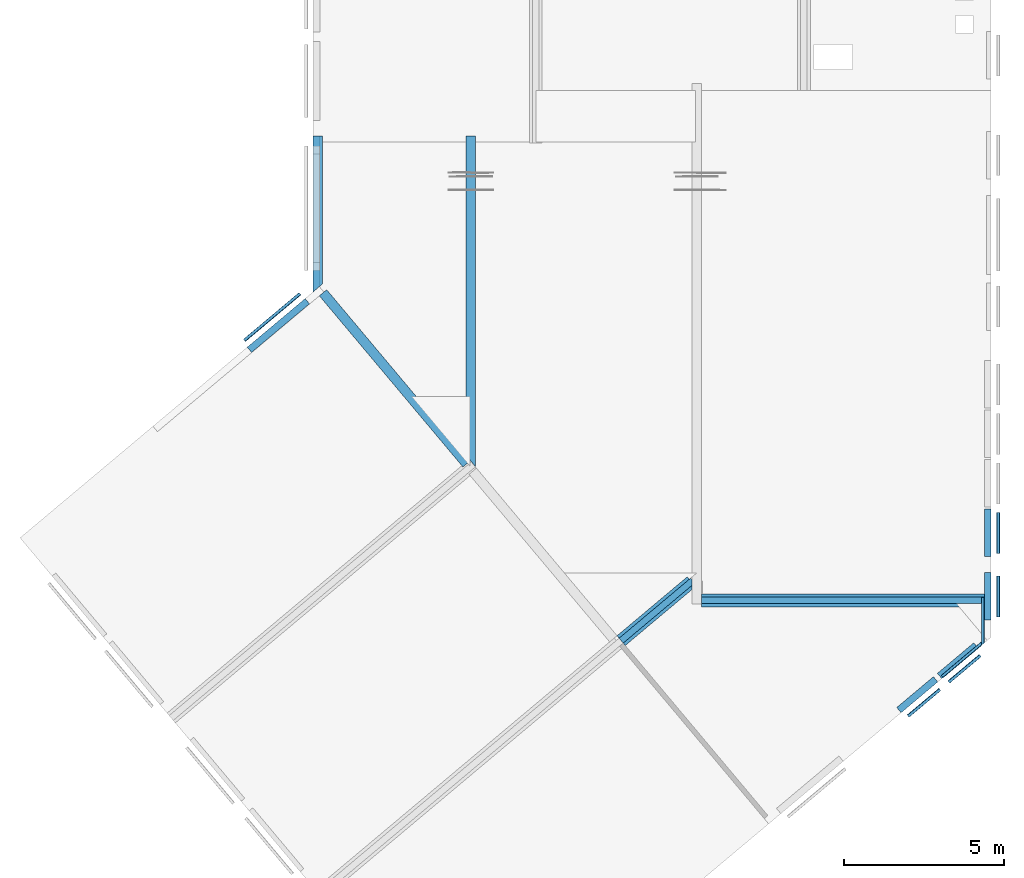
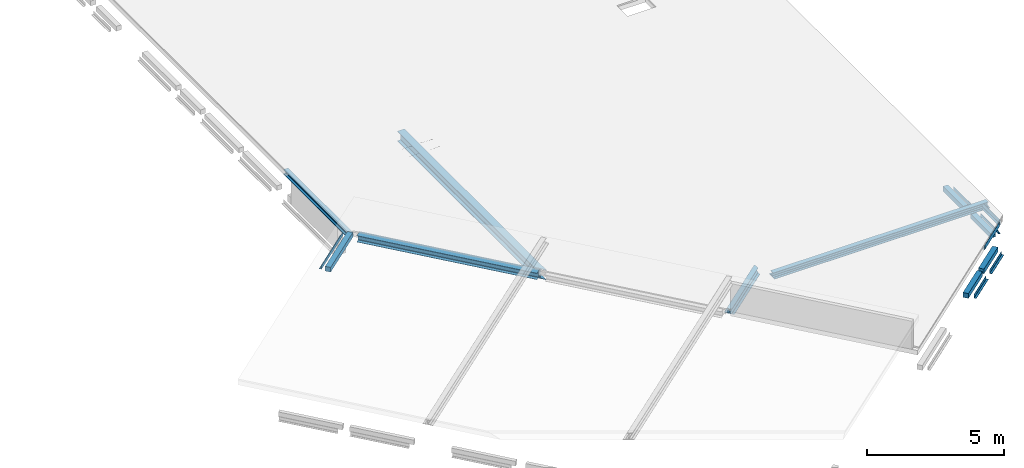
# One storey, part 3 of 9: 18 beams.
"""IFC2X3 building model written with IfcOpenShell, lengths in millimetres."""

from ifc_helpers import new_model, entity, si_unit, converted_unit, derived_unit, direction, frame, frame_2d, origin, origin_2d_with_axis, place, context, subcontext, project, spatial, polyline, circle_curve, parameter, trimmed, segment, composite_curve, rectangle, i_section, outline, extrude, clip, halfspace, source, transform, mapped, material, material_list, type_object, type_shapes, element, save


model = new_model("IFC2X3")

# Units and contexts
model_context = context("Model", 3, precision=0.01, world=origin(), true_north=direction((6.12303176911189e-17, 1.0)))
body_context = subcontext(model_context, "Body", "Model", "MODEL_VIEW")
ifc_project = project(units=[si_unit("LENGTHUNIT", "METRE", prefix="MILLI"), si_unit("AREAUNIT", "SQUARE_METRE"), si_unit("VOLUMEUNIT", "CUBIC_METRE"), converted_unit("PLANEANGLEUNIT", "DEGREE", entity("IfcRatioMeasure", 0.0174532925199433), si_unit("PLANEANGLEUNIT", "RADIAN"), dimensions=[0, 0, 0, 0, 0, 0, 0]), si_unit("MASSUNIT", "GRAM", prefix="KILO"), derived_unit("MASSDENSITYUNIT", [(si_unit("MASSUNIT", "GRAM", prefix="KILO"), 1), (si_unit("LENGTHUNIT", "METRE"), -3)]), derived_unit("MOMENTOFINERTIAUNIT", [(si_unit("LENGTHUNIT", "METRE"), 4)]), si_unit("TIMEUNIT", "SECOND"), si_unit("FREQUENCYUNIT", "HERTZ"), si_unit("THERMODYNAMICTEMPERATUREUNIT", "DEGREE_CELSIUS"), derived_unit("THERMALTRANSMITTANCEUNIT", [(si_unit("MASSUNIT", "GRAM", prefix="KILO"), 1), (si_unit("THERMODYNAMICTEMPERATUREUNIT", "KELVIN"), -1), (si_unit("TIMEUNIT", "SECOND"), -3)]), derived_unit("VOLUMETRICFLOWRATEUNIT", [(si_unit("LENGTHUNIT", "METRE"), 3), (si_unit("TIMEUNIT", "SECOND"), -1)]), si_unit("ELECTRICCURRENTUNIT", "AMPERE"), si_unit("ELECTRICVOLTAGEUNIT", "VOLT"), si_unit("POWERUNIT", "WATT"), si_unit("FORCEUNIT", "NEWTON", prefix="KILO"), si_unit("ILLUMINANCEUNIT", "LUX"), si_unit("LUMINOUSFLUXUNIT", "LUMEN"), si_unit("LUMINOUSINTENSITYUNIT", "CANDELA"), derived_unit("USERDEFINED", [(si_unit("MASSUNIT", "GRAM", prefix="KILO"), -1), (si_unit("LENGTHUNIT", "METRE"), -2), (si_unit("TIMEUNIT", "SECOND"), 3), (si_unit("LUMINOUSFLUXUNIT", "LUMEN"), 1)]), derived_unit("LINEARVELOCITYUNIT", [(si_unit("LENGTHUNIT", "METRE"), 1), (si_unit("TIMEUNIT", "SECOND"), -1)]), si_unit("PRESSUREUNIT", "PASCAL"), derived_unit("USERDEFINED", [(si_unit("LENGTHUNIT", "METRE"), -2), (si_unit("MASSUNIT", "GRAM", prefix="KILO"), 1), (si_unit("TIMEUNIT", "SECOND"), -2)]), derived_unit("LINEARFORCEUNIT", [(si_unit("MASSUNIT", "GRAM", prefix="KILO"), 1), (si_unit("LENGTHUNIT", "METRE"), 1), (si_unit("TIMEUNIT", "SECOND"), -2), (si_unit("LENGTHUNIT", "METRE"), -1)]), derived_unit("PLANARFORCEUNIT", [(si_unit("MASSUNIT", "GRAM", prefix="KILO"), 1), (si_unit("LENGTHUNIT", "METRE"), 1), (si_unit("TIMEUNIT", "SECOND"), -2), (si_unit("LENGTHUNIT", "METRE"), -2)])], contexts=[model_context])

# Site, building, storey
site_placement = place(None, origin())
site = spatial("IfcSite", under=ifc_project, at=site_placement, Name="Default", CompositionType="ELEMENT")
building_placement = place(site_placement, origin())
building = spatial("IfcBuilding", under=site, at=building_placement, CompositionType="ELEMENT")
storey_placement = place(building_placement, frame((0.0, 0.0, 7000.0)))
storey = spatial("IfcBuildingStorey", under=building, at=storey_placement, Name="02 tweede verdieping", CompositionType="ELEMENT", Elevation=7000.00000000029)

# Beams
ifc_material_1 = material(Name="00_Staal_generiek")
beam_type_1 = type_object("IfcBeamType", Name="BERSnl_28_SF_LIB_balk hoeklijn ongelijk_gen_ISR:balk gen l150x100x10", PredefinedType="BEAM")
beam_1_placement = place(storey_placement, frame((35026.8270571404, 3518.22848625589, -60.0), z_axis=(0.0, 0.0, 1.0), x_axis=(0.0, 1.0, 0.0)))
element("IfcBeam", 1, at=beam_1_placement, inside=storey, type_object=beam_type_1, material=ifc_material_1, Name="BERSnl_28_SF_LIB_balk hoeklijn ongelijk_gen_ISR:balk gen l150x100x10", ObjectType="BERSnl_28_SF_LIB_balk hoeklijn ongelijk_gen_ISR:balk gen l150x100x10", context=body_context, shape_type="SweptSolid", body=[
    extrude(outline(composite_curve([segment(polyline([(50.4444444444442, -62.2222222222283), (54.4444444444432, -62.2222222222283)]), True, "CONTINUOUS"), segment(polyline([(54.4444444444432, -62.2222222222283), (54.4444444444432, 37.777777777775)]), True, "CONTINUOUS"), segment(polyline([(54.4444444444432, 37.777777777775), (-95.5555555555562, 37.777777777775)]), True, "CONTINUOUS"), segment(polyline([(-95.5555555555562, 37.777777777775), (-95.5555555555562, 33.7777777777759)]), True, "CONTINUOUS"), segment(trimmed(circle_curve(frame_2d((-89.5555555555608, 33.7777777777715), x_axis=(-1.0, 0.0)), 5.99999999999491), [parameter(0.0)], [parameter(90.0000000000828)], True, "PARAMETER"), True, "CONTINUOUS"), segment(polyline([(-89.5555555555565, 27.7777777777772), (32.4444444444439, 27.7777777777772)]), True, "CONTINUOUS"), segment(trimmed(circle_curve(frame_2d((32.4444444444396, 15.7777777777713), x_axis=(0.0, 1.0)), 12.0000000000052), [parameter(270.000000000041)], [parameter(0.0)], True, "PARAMETER"), False, "CONTINUOUS"), segment(polyline([(44.4444444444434, 15.7777777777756), (44.4444444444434, -56.2222222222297)]), True, "CONTINUOUS"), segment(trimmed(circle_curve(frame_2d((50.4444444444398, -56.222222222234), x_axis=(-1.0, 0.0)), 5.99999999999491), [parameter(0.0)], [parameter(90.0000000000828)], True, "PARAMETER"), True, "CONTINUOUS")], self_intersect=False)), frame((-292.658148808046, -14.377777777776, -95.5555555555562), z_axis=(1.0, 0.0, 0.0), x_axis=(0.0, 0.0, -1.0)), (0.0, 0.0, 1.0), 1285.99999999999),
])
beam_2_placement = place(storey_placement, frame((35026.8270571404, 758.228486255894, -60.0), z_axis=(0.0, 0.0, 1.0), x_axis=(0.0, 1.0, 0.0)))
element("IfcBeam", 2, at=beam_2_placement, inside=storey, type_object=beam_type_1, material=ifc_material_1, Name="BERSnl_28_SF_LIB_balk hoeklijn ongelijk_gen_ISR:balk gen l150x100x10", ObjectType="BERSnl_28_SF_LIB_balk hoeklijn ongelijk_gen_ISR:balk gen l150x100x10", context=body_context, shape_type="SweptSolid", body=[
    extrude(outline(composite_curve([segment(polyline([(50.4444444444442, -62.222222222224), (54.4444444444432, -62.222222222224)]), True, "CONTINUOUS"), segment(polyline([(54.4444444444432, -62.222222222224), (54.4444444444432, 37.7777777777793)]), True, "CONTINUOUS"), segment(polyline([(54.4444444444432, 37.7777777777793), (-95.5555555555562, 37.7777777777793)]), True, "CONTINUOUS"), segment(polyline([(-95.5555555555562, 37.7777777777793), (-95.5555555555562, 33.7777777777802)]), True, "CONTINUOUS"), segment(trimmed(circle_curve(frame_2d((-89.5555555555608, 33.7777777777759), x_axis=(-1.0, 0.0)), 5.99999999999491), [parameter(0.0)], [parameter(90.0000000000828)], True, "PARAMETER"), True, "CONTINUOUS"), segment(polyline([(-89.5555555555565, 27.7777777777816), (32.4444444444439, 27.7777777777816)]), True, "CONTINUOUS"), segment(trimmed(circle_curve(frame_2d((32.4444444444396, 15.7777777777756), x_axis=(0.0, 1.0)), 12.0000000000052), [parameter(270.000000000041)], [parameter(0.0)], True, "PARAMETER"), False, "CONTINUOUS"), segment(polyline([(44.4444444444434, 15.77777777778), (44.4444444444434, -56.2222222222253)]), True, "CONTINUOUS"), segment(trimmed(circle_curve(frame_2d((50.4444444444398, -56.2222222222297), x_axis=(-1.0, 0.0)), 5.99999999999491), [parameter(0.0)], [parameter(90.0000000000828)], True, "PARAMETER"), True, "CONTINUOUS")], self_intersect=False)), frame((477.068142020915, -14.3777777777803, -95.5555555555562), z_axis=(1.0, 0.0, 0.0), x_axis=(0.0, 0.0, -1.0)), (0.0, 0.0, 1.0), 1286.0),
])
beam_3_placement = place(storey_placement, frame((32206.1013074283, -1853.30908147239, -60.0), z_axis=(0.0, 0.0, 1.0), x_axis=(0.766044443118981, 0.642787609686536, 0.0)))
element("IfcBeam", 3, at=beam_3_placement, inside=storey, type_object=beam_type_1, material=ifc_material_1, Name="BERSnl_28_SF_LIB_balk hoeklijn ongelijk_gen_ISR:balk gen l150x100x10", ObjectType="BERSnl_28_SF_LIB_balk hoeklijn ongelijk_gen_ISR:balk gen l150x100x10", context=body_context, shape_type="SweptSolid", body=[
    extrude(outline(composite_curve([segment(polyline([(50.4444444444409, -62.2222222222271), (54.44444444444, -62.2222222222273)]), True, "CONTINUOUS"), segment(polyline([(54.44444444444, -62.2222222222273), (54.4444444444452, 37.7777777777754)]), True, "CONTINUOUS"), segment(polyline([(54.4444444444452, 37.7777777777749), (-95.5555555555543, 37.7777777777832)]), True, "CONTINUOUS"), segment(polyline([(-95.5555555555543, 37.7777777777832), (-95.5555555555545, 33.7777777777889)]), True, "CONTINUOUS"), segment(trimmed(circle_curve(frame_2d((-89.5555555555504, 33.7777777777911), x_axis=(-1.0, 0.0)), 6.00000000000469), [parameter(0.0)], [parameter(89.999999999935)], True, "PARAMETER"), True, "CONTINUOUS"), segment(polyline([(-89.5555555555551, 27.7777777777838), (32.4444444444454, 27.7777777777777)]), True, "CONTINUOUS"), segment(trimmed(circle_curve(frame_2d((32.444444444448, 15.7777777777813), x_axis=(0.0, 1.0)), 11.9999999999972), [parameter(269.99999999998)], [parameter(0.0)], True, "PARAMETER"), False, "CONTINUOUS"), segment(polyline([(44.4444444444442, 15.7777777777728), (44.4444444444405, -56.2222222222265)]), True, "CONTINUOUS"), segment(trimmed(circle_curve(frame_2d((50.4444444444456, -56.2222222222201), x_axis=(-1.0, 0.0)), 6.00000000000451), [parameter(0.0)], [parameter(89.9999999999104)], True, "PARAMETER"), True, "CONTINUOUS")], self_intersect=False)), frame((8.97917340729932, -14.3777777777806, -95.5555555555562), z_axis=(1.0, 0.0, 0.0), x_axis=(0.0, 0.0, -1.0)), (0.0, 0.0, 1.0), 1300.0),
])
beam_4_placement = place(storey_placement, frame((33479.6268100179, -784.694301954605, -60.0), z_axis=(0.0, 0.0, 1.0), x_axis=(0.766044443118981, 0.642787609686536, 0.0)))
element("IfcBeam", 4, at=beam_4_placement, inside=storey, type_object=beam_type_1, material=ifc_material_1, Name="BERSnl_28_SF_LIB_balk hoeklijn ongelijk_gen_ISR:balk gen l150x100x10", ObjectType="BERSnl_28_SF_LIB_balk hoeklijn ongelijk_gen_ISR:balk gen l150x100x10", context=body_context, shape_type="SweptSolid", body=[
    extrude(outline(composite_curve([segment(polyline([(50.4444444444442, -62.2222222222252), (54.4444444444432, -62.2222222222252)]), True, "CONTINUOUS"), segment(polyline([(54.4444444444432, -62.2222222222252), (54.4444444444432, 37.7777777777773)]), True, "CONTINUOUS"), segment(polyline([(54.4444444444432, 37.7777777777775), (-95.5555555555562, 37.7777777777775)]), True, "CONTINUOUS"), segment(polyline([(-95.5555555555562, 37.7777777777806), (-95.5555555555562, 33.7777777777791)]), True, "CONTINUOUS"), segment(trimmed(circle_curve(frame_2d((-89.5555555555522, 33.7777777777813), x_axis=(-1.0, 0.0)), 6.00000000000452), [parameter(0.0)], [parameter(89.9999999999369)], True, "PARAMETER"), True, "CONTINUOUS"), segment(polyline([(-89.5555555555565, 27.7777777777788), (32.4444444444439, 27.7777777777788)]), True, "CONTINUOUS"), segment(trimmed(circle_curve(frame_2d((32.4444444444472, 15.7777777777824), x_axis=(0.0, 1.0)), 11.9999999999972), [parameter(269.99999999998)], [parameter(0.0)], True, "PARAMETER"), False, "CONTINUOUS"), segment(polyline([(44.4444444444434, 15.7777777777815), (44.4444444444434, -56.2222222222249)]), True, "CONTINUOUS"), segment(trimmed(circle_curve(frame_2d((50.4444444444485, -56.2222222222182), x_axis=(-1.0, 0.0)), 6.00000000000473), [parameter(0.0)], [parameter(89.9999999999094)], True, "PARAMETER"), True, "CONTINUOUS")], self_intersect=False)), frame((8.97917340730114, -14.3777777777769, -95.5555555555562), z_axis=(1.0, 0.0, 0.0), x_axis=(0.0, 0.0, -1.0)), (0.0, 0.0, 1.0), 1286.0),
])
beam_5_placement = place(storey_placement, frame((12085.464447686, 10390.0338643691, 1385.0), z_axis=(0.0, 0.0, 1.0), x_axis=(0.766044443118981, 0.642787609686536, 0.0)))
element("IfcBeam", 5, at=beam_5_placement, inside=storey, type_object=beam_type_1, material=ifc_material_1, Name="BERSnl_28_SF_LIB_balk hoeklijn ongelijk_gen_ISR:balk gen l150x100x10", ObjectType="BERSnl_28_SF_LIB_balk hoeklijn ongelijk_gen_ISR:balk gen l150x100x10", context=body_context, shape_type="SweptSolid", body=[
    extrude(outline(composite_curve([segment(polyline([(-95.5555555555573, -37.777777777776), (54.4444444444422, -37.777777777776)]), True, "CONTINUOUS"), segment(polyline([(54.4444444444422, -37.777777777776), (54.4444444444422, 62.2222222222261)]), True, "CONTINUOUS"), segment(polyline([(54.4444444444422, 62.2222222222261), (50.4444444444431, 62.2222222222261)]), True, "CONTINUOUS"), segment(trimmed(circle_curve(frame_2d((50.4444444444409, 56.2222222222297), x_axis=(0.0, 1.0)), 5.99999999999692), [parameter(0.0)], [parameter(90.0000000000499)], True, "PARAMETER"), True, "CONTINUOUS"), segment(polyline([(44.4444444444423, 56.2222222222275), (44.4444444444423, -15.7777777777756)]), True, "CONTINUOUS"), segment(trimmed(circle_curve(frame_2d((32.4444444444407, -15.7777777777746), x_axis=(1.0, 0.0)), 12.0000000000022), [parameter(270.000000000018)], [parameter(0.0)], True, "PARAMETER"), False, "CONTINUOUS"), segment(polyline([(32.4444444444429, -27.7777777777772), (-89.5555555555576, -27.7777777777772)]), True, "CONTINUOUS"), segment(trimmed(circle_curve(frame_2d((-89.5555555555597, -33.7777777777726), x_axis=(0.0, 1.0)), 5.99999999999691), [parameter(0.0)], [parameter(90.0000000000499)], True, "PARAMETER"), True, "CONTINUOUS"), segment(polyline([(-95.5555555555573, -33.7777777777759), (-95.5555555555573, -37.777777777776)]), True, "CONTINUOUS")], self_intersect=False)), frame((-804.467001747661, 14.377777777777, -95.5555555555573), z_axis=(1.0, 0.0, 0.0), x_axis=(0.0, 0.0, -1.0)), (0.0, 0.0, 1.0), 2269.61940370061),
])
ifc_material_2 = material(Name="f2_beton prefab")
beam_type_2 = type_object("IfcBeamType", Name="BERSnl_28_SF_LIB_balk vierkant prefab_gen_ISR:balk vierkant gen 214x210", PredefinedType="JOIST")
beam_6_placement = place(storey_placement, frame((34726.4270571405, 3540.40177371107, 10.0), z_axis=(0.0, 0.0, 1.0), x_axis=(0.0, 1.0, 0.0)))
element("IfcBeam", 6, at=beam_6_placement, inside=storey, type_object=beam_type_2, material=ifc_material_2, Name="BERSnl_28_SF_LIB_balk vierkant prefab_gen_ISR:balk vierkant gen 214x210", ObjectType="BERSnl_28_SF_LIB_balk vierkant prefab_gen_ISR:balk vierkant gen 214x210", context=body_context, shape_type="SweptSolid", body=[
    extrude(rectangle(XDim=210.000000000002, YDim=213.999999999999, at=frame_2d((0.0, 2.16715534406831e-12), x_axis=(1.0, 0.0))), frame((-411.424018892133, 0.0, -105.0), z_axis=(1.0, 0.0, 0.0), x_axis=(0.0, 0.0, -1.0)), (0.0, 0.0, 1.0), 1482.5925826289),
])
beam_7_placement = place(storey_placement, frame((33528.7088804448, -351.365205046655, 10.0), z_axis=(0.0, 0.0, 1.0), x_axis=(0.766044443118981, 0.642787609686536, 0.0)))
element("IfcBeam", 7, at=beam_7_placement, inside=storey, type_object=beam_type_2, material=ifc_material_2, Name="BERSnl_28_SF_LIB_balk vierkant prefab_gen_ISR:balk vierkant gen 214x210", ObjectType="BERSnl_28_SF_LIB_balk vierkant prefab_gen_ISR:balk vierkant gen 214x210", context=body_context, shape_type="SweptSolid", body=[
    extrude(rectangle(XDim=210.000000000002, YDim=213.999999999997, at=frame_2d((1.08713038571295e-12, -2.50821585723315e-12), x_axis=(1.0, 0.0))), frame((-406.777918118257, 0.0, -105.0), z_axis=(1.0, 0.0, 0.0), x_axis=(0.0, 0.0, -1.0)), (0.0, 0.0, 1.0), 1486.69675638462),
])
beam_8_placement = place(storey_placement, frame((34726.4270571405, 1442.4739050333, 10.0), z_axis=(0.0, 0.0, 1.0), x_axis=(0.0, 1.0, 0.0)))
element("IfcBeam", 8, at=beam_8_placement, inside=storey, type_object=beam_type_2, material=ifc_material_2, Name="BERSnl_28_SF_LIB_balk vierkant prefab_gen_ISR:balk vierkant gen 214x210", ObjectType="BERSnl_28_SF_LIB_balk vierkant prefab_gen_ISR:balk vierkant gen 214x210", context=body_context, shape_type="SweptSolid", body=[
    extrude(rectangle(XDim=210.000000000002, YDim=213.999999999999, at=frame_2d((0.0, -2.16715534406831e-12), x_axis=(1.0, 0.0))), frame((-307.177276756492, 0.0, -105.0), z_axis=(1.0, 0.0, 0.0), x_axis=(0.0, 0.0, -1.0)), (0.0, 0.0, 1.0), 1485.02610092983),
])
beam_9_placement = place(storey_placement, frame((32278.1890400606, -1400.67594189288, 10.0), z_axis=(0.0, 0.0, 1.0), x_axis=(0.766044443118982, 0.642787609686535, 0.0)))
element("IfcBeam", 9, at=beam_9_placement, inside=storey, type_object=beam_type_2, material=ifc_material_2, Name="BERSnl_28_SF_LIB_balk vierkant prefab_gen_ISR:balk vierkant gen 214x210", ObjectType="BERSnl_28_SF_LIB_balk vierkant prefab_gen_ISR:balk vierkant gen 214x210", context=body_context, shape_type="SweptSolid", body=[
    extrude(rectangle(XDim=210.000000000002, YDim=213.999999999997, at=frame_2d((0.0, 2.1245227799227e-12), x_axis=(1.0, 0.0))), frame((-436.809677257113, 0.0, -105.0), z_axis=(1.0, 0.0, 0.0), x_axis=(0.0, 0.0, -1.0)), (0.0, 0.0, 1.0), 1499.61946980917),
])
beam_10_placement = place(storey_placement, frame((12930.6709596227, 10710.4270192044, 1455.0), z_axis=(0.0, 0.0, 1.0), x_axis=(-0.766044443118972, -0.642787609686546, 0.0)))
element("IfcBeam", 10, at=beam_10_placement, inside=storey, type_object=beam_type_2, material=ifc_material_2, Name="BERSnl_28_SF_LIB_balk vierkant prefab_gen_ISR:balk vierkant gen 214x210", ObjectType="BERSnl_28_SF_LIB_balk vierkant prefab_gen_ISR:balk vierkant gen 214x210", context=body_context, shape_type="SweptSolid", body=[
    extrude(rectangle(XDim=210.000000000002, YDim=213.999999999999, at=origin_2d_with_axis()), frame((-640.001583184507, 0.0, -105.0), z_axis=(1.0, 0.0, 0.0), x_axis=(0.0, 0.0, -1.0)), (0.0, 0.0, 1.0), 2368.62320900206),
])
beam_type_3 = type_object("IfcBeamType", Name="BERSnl_28_SF_LIB_balk heb_gen_ISR:balk gen heb200", PredefinedType="BEAM")
beam_11_placement = place(storey_placement, frame((13695.4349765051, 13174.9732555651, 1040.0), z_axis=(0.0, 0.0, 1.0), x_axis=(0.0, 1.0, 0.0)))
element("IfcBeam", 11, at=beam_11_placement, inside=storey, type_object=beam_type_3, material=ifc_material_1, Name="BERSnl_28_SF_LIB_balk heb_gen_ISR:balk gen heb200", ObjectType="BERSnl_28_SF_LIB_balk heb_gen_ISR:balk gen heb200", context=body_context, shape_type="SweptSolid", body=[
    clip(extrude(i_section(OverallWidth=200.000000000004, OverallDepth=200.0, WebThickness=8.99999999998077, FlangeThickness=15.0000000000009, FilletRadius=18.0000000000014, at=frame_2d((1.08002495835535e-12, 1.08002495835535e-12), x_axis=(0.0, 1.0))), frame((-1767.04878108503, 0.0, -100.0), z_axis=(1.0, 0.0, 0.0), x_axis=(0.0, 0.0, -1.0)), (0.0, 0.0, 1.0), 4879.37215376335), halfspace(frame((4228.54891559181, -7045.27509476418, -7720.0), z_axis=(-0.766044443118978, -0.64278760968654, 0.0), x_axis=(-0.64278760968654, 0.766044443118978, 0.0)), False)),
])
beam_type_4 = type_object("IfcBeamType", Name="BERSnl_28_SF_LIB_balk strip_gen_ISR:balk strip  gen 300x15", PredefinedType="USERDEFINED")
beam_12_placement = place(storey_placement, frame((13595.4349765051, 13758.0270796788, 832.499999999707), z_axis=(0.0, 0.0, 1.0), x_axis=(0.0, 1.0, 0.0)))
element("IfcBeam", 12, at=beam_12_placement, inside=storey, type_object=beam_type_4, material=ifc_material_1, Name="BERSnl_28_SF_LIB_balk strip_gen_ISR:balk strip  gen 300x15", ObjectType="BERSnl_28_SF_LIB_balk strip_gen_ISR:balk strip  gen 300x15", context=body_context, shape_type="SweptSolid", body=[
    clip(extrude(rectangle(XDim=14.9999999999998, YDim=299.999999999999, at=frame_2d((-5.41344746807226e-13, -2.17426077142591e-12), x_axis=(1.0, 0.0))), frame((-2350.10260519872, -150.0, 0.0), z_axis=(1.0, 0.0, 0.0), x_axis=(0.0, 0.0, -1.0)), (0.0, 0.0, 1.0), 4879.37215376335), halfspace(frame((3645.49509147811, -7145.27509476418, -7512.49999999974), z_axis=(-0.766044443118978, -0.64278760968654, 0.0), x_axis=(-0.64278760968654, 0.766044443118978, 0.0)), False)),
])
beam_type_5 = type_object("IfcBeamType", Name="BERSnl_28_SF_LIB_balk heb_gen_ISR:balk gen heb450", PredefinedType="BEAM")
beam_13_placement = place(storey_placement, frame((18539.7538302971, 12513.1244390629, 1066.0), z_axis=(0.0, 0.0, 1.0), x_axis=(0.0, 1.0, 0.0)))
element("IfcBeam", 13, at=beam_13_placement, inside=storey, type_object=beam_type_5, material=ifc_material_1, Name="BERSnl_28_SF_LIB_balk heb_gen_ISR:balk gen heb450", ObjectType="BERSnl_28_SF_LIB_balk heb_gen_ISR:balk gen heb450", context=body_context, shape_type="SweptSolid", body=[
    clip(extrude(i_section(OverallWidth=299.999999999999, OverallDepth=449.999999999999, WebThickness=13.999999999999, FlangeThickness=26.0000000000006, FilletRadius=27.0000000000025, at=frame_2d((-1.08002495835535e-12, 1.08002495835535e-12), x_axis=(0.0, 1.0))), frame((-6582.60465671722, 0.0, -225.0), z_axis=(1.0, 0.0, 0.0), x_axis=(0.0, 0.0, -1.0)), (0.0, 0.0, 1.0), 10356.7768458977), halfspace(frame((-6586.63547811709, -153.264094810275, 1574.0), z_axis=(-0.62932039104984, 0.777145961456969, 0.0), x_axis=(-0.777145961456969, -0.62932039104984, 0.0)), False)),
])
ifc_material_3 = material(Name="<Unnamed>")
ifc_material_list_1 = material_list([ifc_material_3, ifc_material_1])
beam_type_6 = type_object("IfcBeamType", Name="BERSnl_28_SF_LIB_balk sfb_gen_ISR:balk gen heb200 400x15", PredefinedType="T_BEAM", material=ifc_material_list_1)
shared_shape_1 = source(origin(), body_context, "Body", "SweptSolid", [
    clip(extrude(outline(composite_curve([segment(polyline([(85.0, -100.0), (100.0, -100.0)]), True, "CONTINUOUS"), segment(polyline([(100.0, -100.0), (100.0, 100.0)]), True, "CONTINUOUS"), segment(polyline([(100.0, 100.0), (85.0, 100.0)]), True, "CONTINUOUS"), segment(polyline([(85.0, 100.0), (85.0, 22.5000000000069)]), True, "CONTINUOUS"), segment(trimmed(circle_curve(frame_2d((67.0, 22.5000000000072), x_axis=(1.0, 0.0)), 18.0000000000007), [parameter(270.000000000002)], [parameter(0.0)], True, "PARAMETER"), False, "CONTINUOUS"), segment(polyline([(67.0, 4.50000000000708), (-67.0, 4.50000000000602)]), True, "CONTINUOUS"), segment(trimmed(circle_curve(frame_2d((-67.0, 22.5000000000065), x_axis=(0.0, -1.0)), 18.0000000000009), [parameter(270.000000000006)], [parameter(0.0)], True, "PARAMETER"), False, "CONTINUOUS"), segment(polyline([(-85.0, 22.5000000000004), (-85.0, 100.0)]), True, "CONTINUOUS"), segment(polyline([(-85.0, 100.0), (-100.0, 100.0)]), True, "CONTINUOUS"), segment(polyline([(-100.0, 100.0), (-100.0, -100.0)]), True, "CONTINUOUS"), segment(polyline([(-100.0, -100.0), (-85.0, -100.0)]), True, "CONTINUOUS"), segment(polyline([(-85.0, -100.0), (-85.0, -22.4999999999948)]), True, "CONTINUOUS"), segment(trimmed(circle_curve(frame_2d((-67.0, -22.4999999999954), x_axis=(-1.0, 0.0)), 18.0000000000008), [parameter(270.000000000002)], [parameter(0.0)], True, "PARAMETER"), False, "CONTINUOUS"), segment(polyline([(-67.0, -4.49999999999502), (67.0, -4.4999999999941)]), True, "CONTINUOUS"), segment(trimmed(circle_curve(frame_2d((67.0, -22.4999999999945), x_axis=(0.0, 1.0)), 18.0000000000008), [parameter(270.000000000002)], [parameter(0.0)], True, "PARAMETER"), False, "CONTINUOUS"), segment(polyline([(85.0, -22.4999999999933), (85.0, -100.0)]), True, "CONTINUOUS")], self_intersect=False)), frame((23246.3077374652, 493.623704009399, 7940.0), z_axis=(0.766044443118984, 0.642787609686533, 0.0), x_axis=(0.0, 0.0, 1.0)), (0.0, 0.0, 1.0), 2919.72768922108), halfspace(frame((25459.5162564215, 2055.32251131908, 4150.0), z_axis=(1.0, 0.0, 0.0), x_axis=(0.0, -1.0, 0.0)), False)),
    clip(extrude(rectangle(XDim=15.0000000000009, YDim=400.000000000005, at=frame_2d((0.0, 2.55795384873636e-12), x_axis=(1.0, 0.0))), frame((23246.3077374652, 493.623704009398, 7832.5), z_axis=(0.766044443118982, 0.642787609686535, 0.0), x_axis=(0.0, 0.0, 1.0)), (0.0, 0.0, 1.0), 2869.72768922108), halfspace(frame((25459.5162564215, 2055.32251131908, 4150.0), z_axis=(1.0, 0.0, 0.0), x_axis=(0.0, -1.0, 0.0)), False)),
])
type_shapes(beam_type_6, [shared_shape_1])
beam_14_placement = place(storey_placement, frame((0.0, 0.0, -7000.0)))
element("IfcBeam", 14, at=beam_14_placement, inside=storey, type_object=beam_type_6, Name="BERSnl_28_SF_LIB_balk sfb_gen_ISR:balk gen heb200 400x15", ObjectType="BERSnl_28_SF_LIB_balk sfb_gen_ISR:balk gen heb200 400x15", context=body_context, shape_type="MappedRepresentation", body=[
    mapped(shared_shape_1, transform((0.0, 0.0, 0.0), scale=1.0)),
])
beam_type_7 = type_object("IfcBeamType", Name="BERSnl_28_SF_LIB_balk hea -SH_gen_ISR:balk gen hea300", PredefinedType="BEAM")
beam_15_placement = place(storey_placement, frame((22829.1968048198, 757.358582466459, 1055.0), z_axis=(0.0, 0.0, 1.0), x_axis=(-0.642787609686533, 0.766044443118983, 0.0)))
element("IfcBeam", 15, at=beam_15_placement, inside=storey, type_object=beam_type_7, material=ifc_material_1, Name="BERSnl_28_SF_LIB_balk hea -SH_gen_ISR:balk gen hea300", ObjectType="BERSnl_28_SF_LIB_balk hea -SH_gen_ISR:balk gen hea300", context=body_context, shape_type="SweptSolid", body=[
    extrude(i_section(OverallWidth=300.000000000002, OverallDepth=289.999999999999, WebThickness=8.50000000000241, FlangeThickness=14.0000000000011, FilletRadius=27.0000000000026, at=frame_2d((0.0, 2.71427325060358e-12), x_axis=(0.0, 1.0))), frame((6878.84257250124, 0.0, -145.0), z_axis=(1.0, 0.0, 0.0), x_axis=(0.0, 0.0, -1.0)), (0.0, 0.0, 1.0), 6995.29996289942),
])
beam_type_8 = type_object("IfcBeamType", Name="BERSnl_28_SF_LIB_balk hoeklijn ongelijk_gen_ISR:balk gen l200x100x10", PredefinedType="BEAM")
beam_16_placement = place(storey_placement, frame((33628.1989406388, -396.450270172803, 1040.0), z_axis=(0.0, 0.0, 1.0), x_axis=(0.766044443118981, 0.642787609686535, 0.0)))
element("IfcBeam", 16, at=beam_16_placement, inside=storey, type_object=beam_type_8, material=ifc_material_1, Name="BERSnl_28_SF_LIB_balk hoeklijn ongelijk_gen_ISR:balk gen l200x100x10", ObjectType="BERSnl_28_SF_LIB_balk hoeklijn ongelijk_gen_ISR:balk gen l200x100x10", context=body_context, shape_type="SweptSolid", body=[
    clip(extrude(outline(composite_curve([segment(polyline([(-128.888888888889, -37.7777777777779), (71.1111111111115, -37.7777777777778)]), True, "CONTINUOUS"), segment(polyline([(71.1111111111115, -37.777777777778), (71.1111111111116, 62.2222222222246)]), True, "CONTINUOUS"), segment(polyline([(71.1111111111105, 62.2222222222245), (68.6111111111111, 62.2222222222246)]), True, "CONTINUOUS"), segment(trimmed(circle_curve(frame_2d((68.6111111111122, 54.7222222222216), x_axis=(0.0, 1.0)), 7.50000000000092), [parameter(0.0)], [parameter(89.999999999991)], True, "PARAMETER"), True, "CONTINUOUS"), segment(polyline([(61.1111111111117, 54.7222222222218), (61.1111111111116, -12.7777777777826)]), True, "CONTINUOUS"), segment(trimmed(circle_curve(frame_2d((46.1111111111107, -12.7777777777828), x_axis=(1.0, 0.0)), 15.0000000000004), [parameter(270.000000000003)], [parameter(0.0)], True, "PARAMETER"), False, "CONTINUOUS"), segment(polyline([(46.1111111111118, -27.7777777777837), (-121.388888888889, -27.7777777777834)]), True, "CONTINUOUS"), segment(trimmed(circle_curve(frame_2d((-121.388888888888, -35.2777777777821), x_axis=(0.0, 1.0)), 7.50000000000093), [parameter(0.0)], [parameter(89.999999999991)], True, "PARAMETER"), True, "CONTINUOUS"), segment(polyline([(-128.888888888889, -35.2777777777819), (-128.888888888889, -37.7777777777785)]), True, "CONTINUOUS")], self_intersect=False)), frame((-402.018524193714, 17.677777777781, -128.888888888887), z_axis=(1.0, 0.0, 0.0), x_axis=(0.0, 0.0, -1.0)), (0.0, 0.0, 1.0), 1645.53233735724), halfspace(frame((1243.51381316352, 79.8999999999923, 500.0), z_axis=(0.766044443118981, -0.642787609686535, 0.0), x_axis=(0.642787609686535, 0.766044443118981, 0.0)), False)),
])
beam_17_placement = place(storey_placement, frame((34609.3270571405, 555.38110846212, 1040.0), z_axis=(0.0, 0.0, 1.0), x_axis=(0.0, 1.0, 0.0)))
element("IfcBeam", 17, at=beam_17_placement, inside=storey, type_object=beam_type_8, material=ifc_material_1, Name="BERSnl_28_SF_LIB_balk hoeklijn ongelijk_gen_ISR:balk gen l200x100x10", ObjectType="BERSnl_28_SF_LIB_balk hoeklijn ongelijk_gen_ISR:balk gen l200x100x10", context=body_context, shape_type="SweptSolid", body=[
    clip(extrude(outline(composite_curve([segment(polyline([(-128.888888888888, -37.7777777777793), (71.1111111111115, -37.7777777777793)]), True, "CONTINUOUS"), segment(polyline([(71.1111111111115, -37.7777777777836), (71.1111111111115, 62.2222222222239)]), True, "CONTINUOUS"), segment(polyline([(71.1111111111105, 62.2222222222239), (68.611111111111, 62.2222222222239)]), True, "CONTINUOUS"), segment(trimmed(circle_curve(frame_2d((68.6111111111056, 54.72222222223), x_axis=(0.0, 1.0)), 7.4999999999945), [parameter(0.0)], [parameter(90.0000000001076)], True, "PARAMETER"), True, "CONTINUOUS"), segment(polyline([(61.1111111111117, 54.7222222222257), (61.1111111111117, -12.7777777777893)]), True, "CONTINUOUS"), segment(trimmed(circle_curve(frame_2d((46.1111111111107, -12.7777777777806), x_axis=(1.0, 0.0)), 15.0000000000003), [parameter(270.000000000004)], [parameter(0.0)], True, "PARAMETER"), False, "CONTINUOUS"), segment(polyline([(46.1111111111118, -27.7777777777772), (-121.388888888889, -27.7777777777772)]), True, "CONTINUOUS"), segment(trimmed(circle_curve(frame_2d((-121.388888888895, -35.2777777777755), x_axis=(0.0, 1.0)), 7.49999999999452), [parameter(0.0)], [parameter(90.0000000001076)], True, "PARAMETER"), True, "CONTINUOUS"), segment(polyline([(-128.888888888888, -35.2777777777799), (-128.888888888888, -37.7777777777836)]), True, "CONTINUOUS")], self_intersect=False)), frame((-206.722640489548, 17.6777777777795, -128.888888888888), z_axis=(1.0, 0.0, 0.0), x_axis=(0.0, 0.0, -1.0)), (0.0, 0.0, 1.0), 1488.55461144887), halfspace(frame((-19924.3540958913, 23578.4581244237, -7810.0), z_axis=(-0.766044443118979, -0.642787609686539, 0.0), x_axis=(-0.642787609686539, 0.766044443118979, 0.0)), False)),
])
ifc_material_list_2 = material_list([ifc_material_3, ifc_material_1])
beam_type_9 = type_object("IfcBeamType", Name="BERSnl_28_SF_LIB_balk sfb_gen_ISR:balk gen heb200 400x15", PredefinedType="T_BEAM", material=ifc_material_list_2)
shared_shape_2 = source(origin(), body_context, "Body", "SweptSolid", [
    extrude(rectangle(XDim=15.0, YDim=400.0, at=origin_2d_with_axis()), frame((-5629.69894663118, 0.0, -60.5000000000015), z_axis=(1.0, 0.0, 0.0), x_axis=(0.0, 0.0, -1.0)), (0.0, 0.0, 1.0), 9065.91391715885),
    extrude(outline(composite_curve([segment(polyline([(85.0, -100.0), (100.0, -100.0)]), True, "CONTINUOUS"), segment(polyline([(100.0, -100.0), (100.0, 100.0)]), True, "CONTINUOUS"), segment(polyline([(100.0, 100.0), (85.0, 100.0)]), True, "CONTINUOUS"), segment(polyline([(85.0, 100.0), (85.0, 22.4999999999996)]), True, "CONTINUOUS"), segment(trimmed(circle_curve(frame_2d((67.0, 22.4999999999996), x_axis=(1.0, 0.0)), 18.0), [parameter(270.0)], [parameter(0.0)], True, "PARAMETER"), False, "CONTINUOUS"), segment(polyline([(67.0, 4.49999999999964), (-67.0, 4.49999999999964)]), True, "CONTINUOUS"), segment(trimmed(circle_curve(frame_2d((-67.0, 22.4999999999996), x_axis=(0.0, -1.0)), 18.0), [parameter(270.0)], [parameter(0.0)], True, "PARAMETER"), False, "CONTINUOUS"), segment(polyline([(-85.0, 22.4999999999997), (-85.0, 100.0)]), True, "CONTINUOUS"), segment(polyline([(-85.0, 100.0), (-100.0, 100.0)]), True, "CONTINUOUS"), segment(polyline([(-100.0, 100.0), (-100.0, -100.0)]), True, "CONTINUOUS"), segment(polyline([(-100.0, -100.0), (-85.0, -100.0)]), True, "CONTINUOUS"), segment(polyline([(-85.0, -100.0), (-85.0, -22.5000000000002)]), True, "CONTINUOUS"), segment(trimmed(circle_curve(frame_2d((-67.0, -22.5000000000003), x_axis=(-1.0, 0.0)), 18.0), [parameter(270.0)], [parameter(0.0)], True, "PARAMETER"), False, "CONTINUOUS"), segment(polyline([(-67.0, -4.50000000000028), (67.0, -4.50000000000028)]), True, "CONTINUOUS"), segment(trimmed(circle_curve(frame_2d((67.0, -22.5000000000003), x_axis=(0.0, 1.0)), 18.0), [parameter(270.0)], [parameter(0.0)], True, "PARAMETER"), False, "CONTINUOUS"), segment(polyline([(85.0, -22.5000000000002), (85.0, -100.0)]), True, "CONTINUOUS")], self_intersect=False)), frame((-5630.0, 0.0, 47.0), z_axis=(1.0, 0.0, 0.0), x_axis=(0.0, 0.0, -1.0)), (0.0, 0.0, 1.0), 9067.99208063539),
])
type_shapes(beam_type_9, [shared_shape_2])
beam_18_placement = place(storey_placement, frame((31395.4349765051, 1752.29662827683, 893.0)))
element("IfcBeam", 18, at=beam_18_placement, inside=storey, type_object=beam_type_9, Name="BERSnl_28_SF_LIB_balk sfb_gen_ISR:balk gen heb200 400x15", ObjectType="BERSnl_28_SF_LIB_balk sfb_gen_ISR:balk gen heb200 400x15", context=body_context, shape_type="MappedRepresentation", body=[
    mapped(shared_shape_2, transform((0.0, 0.0, 0.0), scale=1.0)),
])

save(model, "model.ifc")
